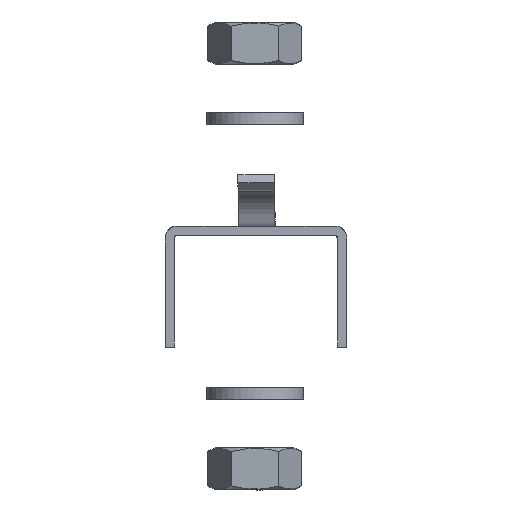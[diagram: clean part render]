
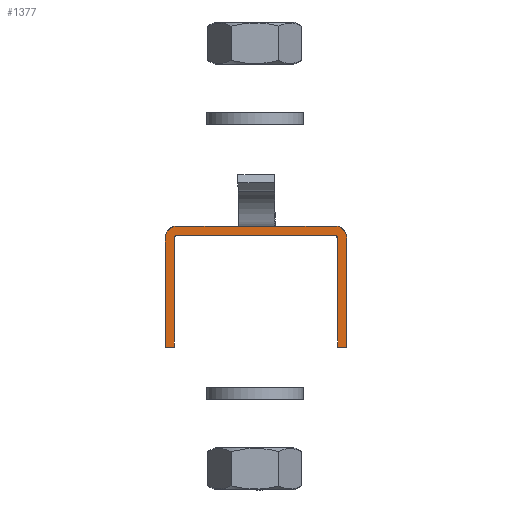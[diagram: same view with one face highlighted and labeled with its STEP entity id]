
A CAD part, front view. The second image highlights one B-rep face of the part: STEP entity #1377.
In plain terms, the highlighted planar face has unit normal (0, -1, 0).
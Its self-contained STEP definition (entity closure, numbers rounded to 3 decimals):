
#111=PLANE($,#4092);
#1377=ADVANCED_FACE($,(#1518),#111,.T.);
#1518=FACE_OUTER_BOUND($,#1683,.T.);
#1683=EDGE_LOOP($,(#2297,#2298,#2299,#2300,#2301));
#2297=ORIENTED_EDGE($,*,*,#2863,.T.);
#2298=ORIENTED_EDGE($,*,*,#2867,.T.);
#2299=ORIENTED_EDGE($,*,*,#2866,.T.);
#2300=ORIENTED_EDGE($,*,*,#2865,.T.);
#2301=ORIENTED_EDGE($,*,*,#2864,.T.);
#2863=EDGE_CURVE($,#3369,#3373,#4013,.T.);
#2864=EDGE_CURVE($,#3370,#3369,#3761,.T.);
#2865=EDGE_CURVE($,#3371,#3370,#3762,.T.);
#2866=EDGE_CURVE($,#3372,#3371,#4014,.T.);
#2867=EDGE_CURVE($,#3373,#3372,#3763,.T.);
#3369=VERTEX_POINT($,#9799);
#3370=VERTEX_POINT($,#9800);
#3371=VERTEX_POINT($,#9801);
#3372=VERTEX_POINT($,#9802);
#3373=VERTEX_POINT($,#9803);
#3761=B_SPLINE_CURVE_WITH_KNOTS($,1,(#9781,#9782),.UNSPECIFIED.,.F.,.F.,
(2,2),(-43.717,-25.717),.UNSPECIFIED.);
#3762=B_SPLINE_CURVE_WITH_KNOTS($,1,(#9783,#9784),.UNSPECIFIED.,.F.,.F.,
(2,2),(-45.217,-43.717),.UNSPECIFIED.);
#3763=B_SPLINE_CURVE_WITH_KNOTS($,1,(#9796,#9797),.UNSPECIFIED.,.F.,.F.,
(2,2),(-115.,-113.5),.UNSPECIFIED.);
#4013=(
BOUNDED_CURVE()
B_SPLINE_CURVE(2,(#9772,#9773,#9774,#9775,#9776,#9777,#9778,#9779,#9780),
.UNSPECIFIED.,.F.,.F.)
B_SPLINE_CURVE_WITH_KNOTS((3,2,2,2,3),(-160.571,-159.785,
-133.785,-133.,-115.),.UNSPECIFIED.)
CURVE()
GEOMETRIC_REPRESENTATION_ITEM()
RATIONAL_B_SPLINE_CURVE((1.,0.707,1.,1.,1.,0.707,
1.,1.,1.))
REPRESENTATION_ITEM($)
);
#4014=(
BOUNDED_CURVE()
B_SPLINE_CURVE(2,(#9785,#9786,#9787,#9788,#9789,#9790,#9791,#9792,#9793,
#9794,#9795),.UNSPECIFIED.,.F.,.F.)
B_SPLINE_CURVE_WITH_KNOTS((3,2,2,2,2,3),(-113.5,-95.5,-92.358,
-66.358,-63.217,-45.217),.UNSPECIFIED.)
CURVE()
GEOMETRIC_REPRESENTATION_ITEM()
RATIONAL_B_SPLINE_CURVE((1.,1.,1.,0.707,1.,1.,1.,0.707,
1.,1.,1.))
REPRESENTATION_ITEM($)
);
#4092=AXIS2_PLACEMENT_3D($,#9798,#4147,$);
#4147=DIRECTION($,(0.,-1.,0.));
#9772=CARTESIAN_POINT($,(-16.5,-513.969,-2.));
#9773=CARTESIAN_POINT($,(-16.5,-513.969,-1.5));
#9774=CARTESIAN_POINT($,(-16.,-513.969,-1.5));
#9775=CARTESIAN_POINT($,(-3.,-513.969,-1.5));
#9776=CARTESIAN_POINT($,(10.,-513.969,-1.5));
#9777=CARTESIAN_POINT($,(10.5,-513.969,-1.5));
#9778=CARTESIAN_POINT($,(10.5,-513.969,-2.));
#9779=CARTESIAN_POINT($,(10.5,-513.969,-11.));
#9780=CARTESIAN_POINT($,(10.5,-513.969,-20.));
#9781=CARTESIAN_POINT($,(-16.5,-513.969,-20.));
#9782=CARTESIAN_POINT($,(-16.5,-513.969,-2.));
#9783=CARTESIAN_POINT($,(-18.,-513.969,-20.));
#9784=CARTESIAN_POINT($,(-16.5,-513.969,-20.));
#9785=CARTESIAN_POINT($,(12.,-513.969,-20.));
#9786=CARTESIAN_POINT($,(12.,-513.969,-11.));
#9787=CARTESIAN_POINT($,(12.,-513.969,-2.));
#9788=CARTESIAN_POINT($,(12.,-513.969,0.));
#9789=CARTESIAN_POINT($,(10.,-513.969,0.));
#9790=CARTESIAN_POINT($,(-3.,-513.969,0.));
#9791=CARTESIAN_POINT($,(-16.,-513.969,0.));
#9792=CARTESIAN_POINT($,(-18.,-513.969,0.));
#9793=CARTESIAN_POINT($,(-18.,-513.969,-2.));
#9794=CARTESIAN_POINT($,(-18.,-513.969,-11.));
#9795=CARTESIAN_POINT($,(-18.,-513.969,-20.));
#9796=CARTESIAN_POINT($,(10.5,-513.969,-20.));
#9797=CARTESIAN_POINT($,(12.,-513.969,-20.));
#9798=CARTESIAN_POINT($,(-18.,-513.969,-20.));
#9799=CARTESIAN_POINT($,(-16.5,-513.969,-2.));
#9800=CARTESIAN_POINT($,(-16.5,-513.969,-20.));
#9801=CARTESIAN_POINT($,(-18.,-513.969,-20.));
#9802=CARTESIAN_POINT($,(12.,-513.969,-20.));
#9803=CARTESIAN_POINT($,(10.5,-513.969,-20.));
